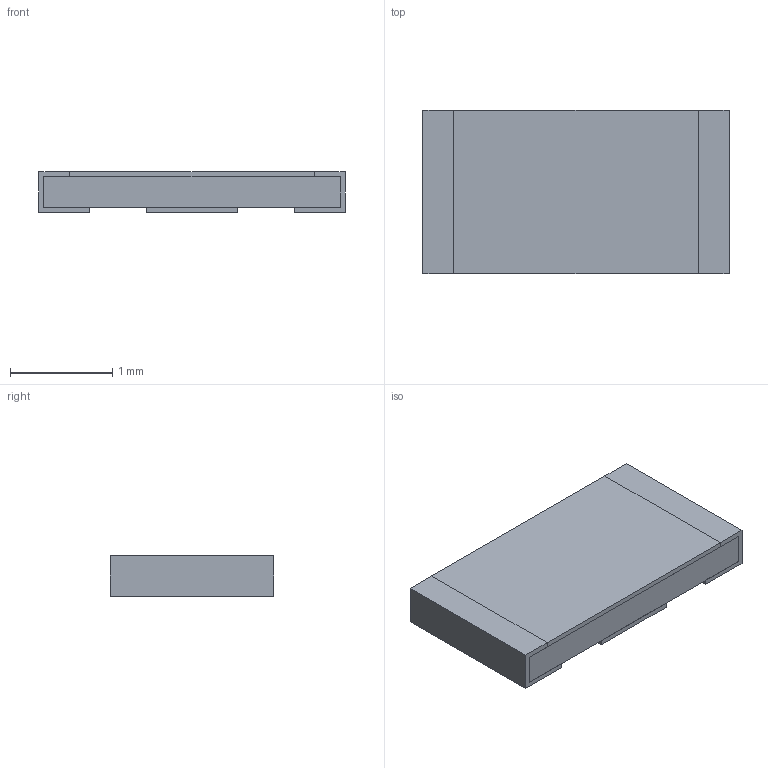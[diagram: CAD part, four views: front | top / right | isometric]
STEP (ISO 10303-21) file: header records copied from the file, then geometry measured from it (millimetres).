
FILE_DESCRIPTION(('STEP AP203'), '1');
FILE_NAME('栖闉罻', '', ('UNSPECIFIED'), ('UNSPECIFIED'), 'ASCON STEP Converter 1.6', 'ASCON Math Kernel', '');
FILE_SCHEMA(('CONFIG_CONTROL_DESIGN'));
Length unit declared in the file: millimetre
Assembly tree (1 placements, depth 2):
  (unnamed)
    (unnamed)
Bounding box: 3 x 1.6 x 0.4 mm (x, y, z)
Volume: 1.8 mm3; surface area: 31.8 mm2
Topology: 5 solids, 6 shells, 57 faces, 135 edges, 90 vertices
Faces by surface type: plane 53, cylinder 4
Entity records: 2193 total; most frequent: CARTESIAN_POINT 284, ORIENTED_EDGE 270, DIRECTION 261, EDGE_CURVE 135, LINE 127, VECTOR 127, VERTEX_POINT 90, AXIS2_PLACEMENT_3D 67
